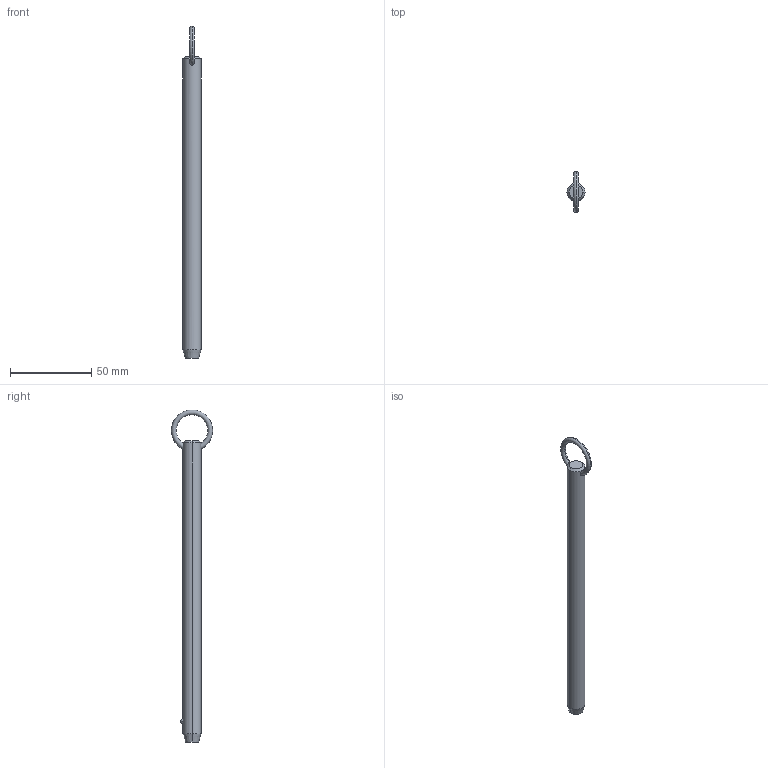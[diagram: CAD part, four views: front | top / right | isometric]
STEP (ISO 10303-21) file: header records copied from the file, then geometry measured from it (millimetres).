
FILE_DESCRIPTION (( 'STEP AP203' ), '1' );
FILE_NAME ('P1250.050-650.step', '2019-07-29T20:42:10', ( '' ), ( '' ), 'SwSTEP 2.0', 'SolidWorks 2017', '' );
FILE_SCHEMA (( 'CONFIG_CONTROL_DESIGN' ));
Length unit declared in the file: millimetre
Products named in the file (1): P1250.050-650
Bounding box: 11.1 x 25.32 x 204.65 mm (x, y, z)
Volume: 18252.7 mm3; surface area: 7128.3 mm2
Topology: 1 solids, 1 shells, 12 faces, 28 edges, 17 vertices
Faces by surface type: cone 4, torus 2, sphere 2, cylinder 2, plane 2
Entity records: 523 total; most frequent: CARTESIAN_POINT 190, DIRECTION 56, ORIENTED_EDGE 48, AXIS2_PLACEMENT_3D 25, EDGE_CURVE 24, EDGE_LOOP 15, VERTEX_POINT 15, FACE_OUTER_BOUND 12
